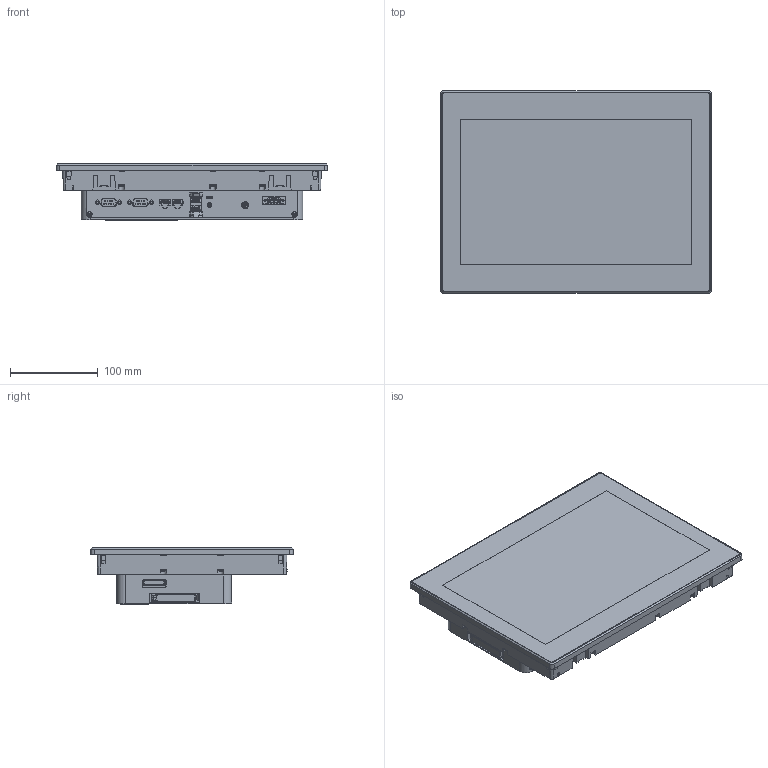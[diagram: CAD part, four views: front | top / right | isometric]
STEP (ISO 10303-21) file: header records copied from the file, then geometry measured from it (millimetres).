
FILE_DESCRIPTION(/* description */ (''),/* implementation_level */ '2;1');
FILE_NAME(/* name */ 'HMI_12W_WXGA_DC_3D-simpl.stp',/* time_stamp */ '2025-10-20T12:41:49+02:00',/* author */ (''),/* organization */ (''),/* preprocessor_version */ 'ST-DEVELOPER v16.7',/* originating_system */ 'SIEMENS PLM Software NX 12.0',/* authorisation */ '');
FILE_SCHEMA (('AP203_CONFIGURATION_CONTROLLED_3D_DESIGN_OF_MECHANICAL_PARTS_AND_ASSEMBLIES_MIM_LF { 1 0 10303 403 2 1 2}'));
Products named in the file (1): HMI_12W_WXGA_DC_3D-simpl_step
Bounding box: 308.5 x 230.5 x 64.28 mm (x, y, z)
Volume: 2641460.2 mm3; surface area: 373013 mm2
Topology: 3 solids, 12 shells, 2683 faces, 7339 edges, 4744 vertices
Faces by surface type: plane 1530, cylinder 698, cone 213, bspline 172, torus 45, sphere 25
Full cylindrical faces by diameter (mm): 0.99 x18, 2.5 x4, 2.8 x2, 2.845 x4, 3 x11, 4 x4, 4.3 x4, 4.5 x1, 5.6 x17, 6 x6, 6.5 x1, 8 x1, 8.454 x6, 60.708 x1
Entity records: 97559 total; most frequent: CARTESIAN_POINT 33192, ORIENTED_EDGE 14100, DIRECTION 11893, EDGE_CURVE 7050, VERTEX_POINT 4669, LINE 4441, VECTOR 4441, AXIS2_PLACEMENT_3D 3726
